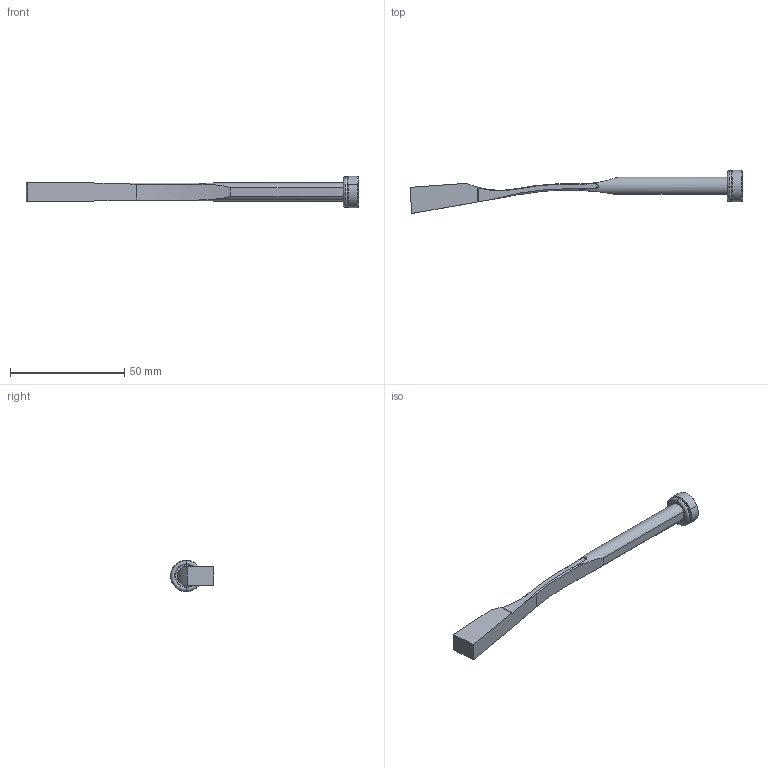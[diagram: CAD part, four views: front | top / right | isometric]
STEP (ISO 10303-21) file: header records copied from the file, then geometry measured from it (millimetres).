
FILE_DESCRIPTION (( 'STEP AP214' ), '1' );
FILE_NAME ('PW080825.STEP', '2020-02-10T08:43:22', ( '' ), ( '' ), 'SwSTEP 2.0', 'SolidWorks 2018', '' );
FILE_SCHEMA (( 'AUTOMOTIVE_DESIGN' ));
Length unit declared in the file: millimetre
Products named in the file (5): 9FP1406M5; 9PW080825; PW080825; 1DIN7984516_DIN 7984 - M5 x 16 --- 16C; 3JT9.5X2X13.5
Assembly tree (4 placements, depth 2):
  PW080825
    9PW080825
    9FP1406M5
    1DIN7984516_DIN 7984 - M5 x 16 --- 16C
    3JT9.5X2X13.5
Bounding box: 145.51 x 18.87 x 13.8 mm (x, y, z)
Volume: 6954.6 mm3; surface area: 5600.3 mm2
Topology: 4 solids, 4 shells, 88 faces, 199 edges, 118 vertices
Faces by surface type: plane 30, cylinder 20, cone 20, torus 16, bspline 2
Entity records: 2821 total; most frequent: CARTESIAN_POINT 566, DIRECTION 451, ORIENTED_EDGE 390, EDGE_CURVE 195, AXIS2_PLACEMENT_3D 185, VERTEX_POINT 118, EDGE_LOOP 95, CIRCLE 92
